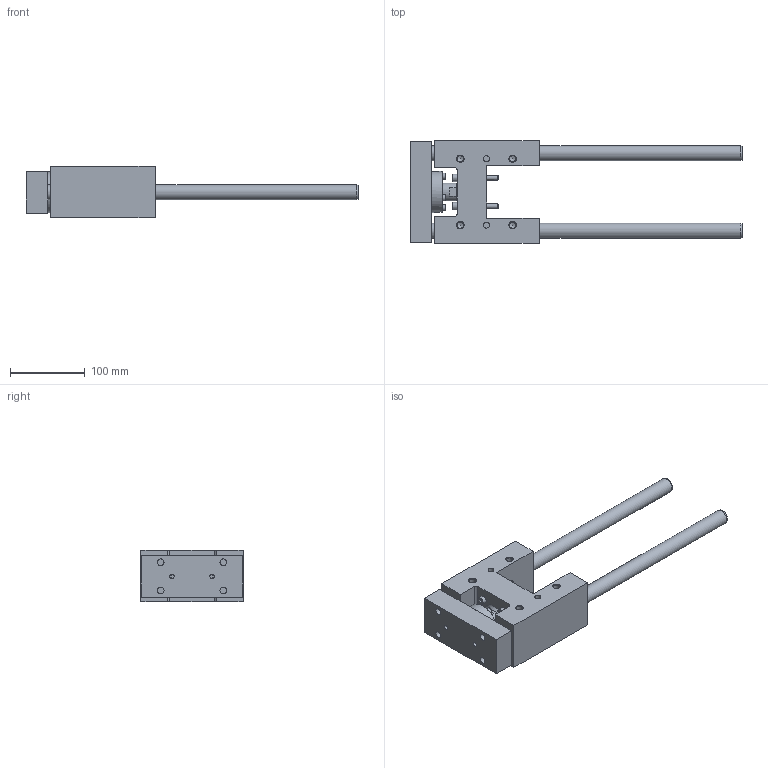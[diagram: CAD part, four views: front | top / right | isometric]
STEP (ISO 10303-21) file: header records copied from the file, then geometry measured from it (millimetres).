
FILE_DESCRIPTION( ( 'STEP AP214' ), '1' );
FILE_NAME( 'U:/Etudes/Top Solid/BIBLIO 3D AVM/TOP/PNEUMATIQUE/GUIDAGES/Type 32 (en H)/R_Renforcée/325R5_30.step', '2005-05-27T08:57:02', ( ' ' ), ( ' ' ), 'XStep 1.0', ' ', ' ' );
FILE_SCHEMA( ( 'automotive_design' ) );
Length unit declared in the file: metre
Products named in the file (2): 1; 2
Bounding box: 445 x 137 x 69 mm (x, y, z)
Volume: 1225808.1 mm3; surface area: 199733.6 mm2
Topology: 2 solids, 7 shells, 223 faces, 504 edges, 337 vertices
Faces by surface type: plane 128, cylinder 74, cone 21
Full cylindrical faces by diameter (mm): 5 x8, 6 x10, 6.5 x8, 6.647 x4, 8 x2, 8.376 x8, 8.5 x4, 9 x4, 10 x4, 10.2 x4, 10.647 x2, 15 x4, 20 x4, 24 x1, 26 x1, 34 x1, 35 x1, 37 x1, 55 x1
Entity records: 7481 total; most frequent: CARTESIAN_POINT 1145, DIRECTION 956, ORIENTED_EDGE 724, EDGE_LOOP 386, AXIS2_PLACEMENT_3D 377, EDGE_CURVE 362, FACE_OUTER_BOUND 295, VERTEX_POINT 294
